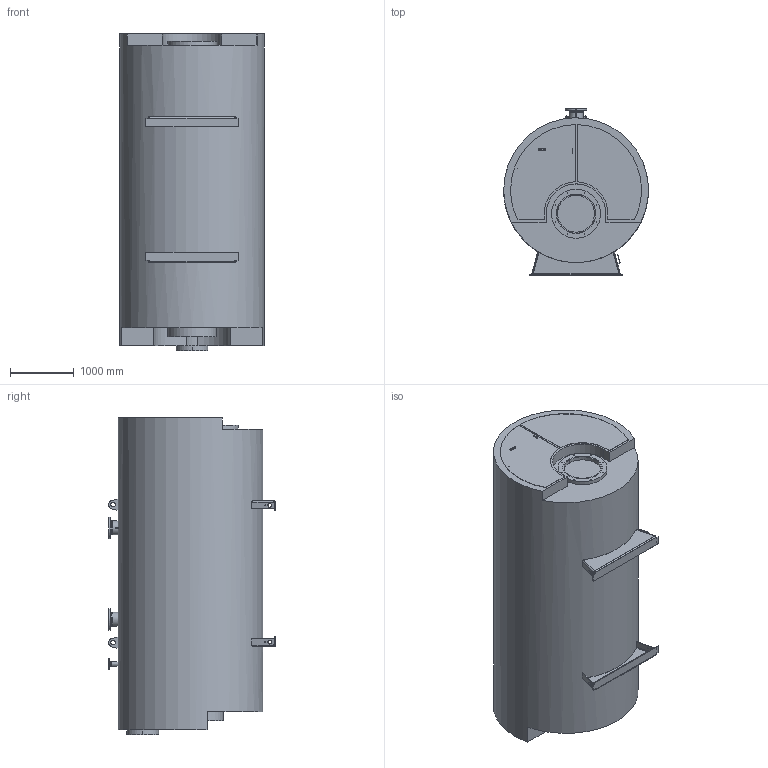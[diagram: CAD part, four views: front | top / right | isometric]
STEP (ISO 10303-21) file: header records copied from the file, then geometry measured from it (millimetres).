
FILE_DESCRIPTION(('TFLEX Exchange Step'),'2;1');
FILE_NAME('M62D024_7550659_H001.stp', '2024-08-09T13:05:17+03:00',('kort'),('Unknown organisation'),'TFLEX Exchange 2024.2','T-FLEX CAD','Unknown authorisation');
FILE_SCHEMA( ('AP242_MANAGED_MODEL_BASED_3D_ENGINEERING_MIM_LF {1 0 10303 442 1 1 4 }') );
Length unit declared in the file: millimetre
Products named in the file (1): 7550659_Grundkessel M62D024_H001
Bounding box: 2272.12 x 2620 x 4984.2 mm (x, y, z)
Volume: 19161997421.9 mm3; surface area: 47394395.8 mm2
Topology: 25 solids, 25 shells, 553 faces, 1428 edges, 970 vertices
Faces by surface type: plane 299, cylinder 148, bspline 86, torus 12, cone 8
Full cylindrical faces by diameter (mm): 1 x2, 2.2 x4, 3.2 x4, 3.3 x4, 4 x4, 6.5 x4, 10.11 x8, 13 x4, 18 x4, 18.63 x2, 22 x24, 27 x2, 60 x4, 67.1 x1, 70 x2, 70.3 x1, 76.1 x2, 122 x1, 185 x1, 203.1 x2, 206.5 x2, 219.1 x2, 340 x2, 760 x1, 770 x1, 2274 x1
Entity records: 23526 total; most frequent: CARTESIAN_POINT 9627, ORIENTED_EDGE 2852, DIRECTION 2559, EDGE_CURVE 1426, VERTEX_POINT 970, AXIS2_PLACEMENT_3D 877, VECTOR 805, LINE 805
